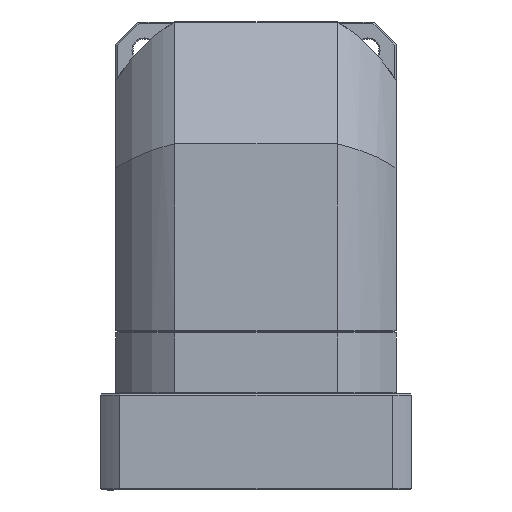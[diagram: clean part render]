
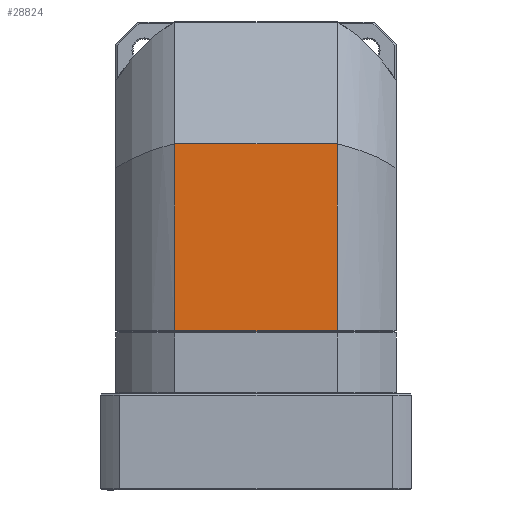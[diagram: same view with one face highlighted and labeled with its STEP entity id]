
A CAD part, front view. The second image highlights one B-rep face of the part: STEP entity #28824.
In plain terms, the highlighted planar face has unit normal (0, 1, 0).
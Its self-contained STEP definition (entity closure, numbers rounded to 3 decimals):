
#3601 = CARTESIAN_POINT ( 'NONE',  ( 33.407, -172.111, 7.5 ) ) ;
#3879 = EDGE_LOOP ( 'NONE', ( #90164, #18496, #23633, #68436 ) ) ;
#4256 = CARTESIAN_POINT ( 'NONE',  ( -33.407, -172.111, -69.2 ) ) ;
#10354 = EDGE_CURVE ( 'NONE', #79017, #15861, #17629, .T. ) ;
#12039 = DIRECTION ( 'NONE',  ( 1., 0., 0. ) ) ;
#15014 = DIRECTION ( 'NONE',  ( 1., 0., 0. ) ) ;
#15861 = VERTEX_POINT ( 'NONE', #21149 ) ;
#17629 = LINE ( 'NONE', #47541, #30992 ) ;
#18496 = ORIENTED_EDGE ( 'NONE', *, *, #10354, .F. ) ;
#19668 = EDGE_CURVE ( 'NONE', #79017, #80473, #44765, .T. ) ;
#21149 = CARTESIAN_POINT ( 'NONE',  ( 33.407, -172.111, -69.2 ) ) ;
#21383 = CARTESIAN_POINT ( 'NONE',  ( -33.407, -172.111, -30.62 ) ) ;
#21651 = VECTOR ( 'NONE', #52664, 1000. ) ;
#23633 = ORIENTED_EDGE ( 'NONE', *, *, #19668, .T. ) ;
#24098 = DIRECTION ( 'NONE',  ( 1., 0., 0. ) ) ;
#28824 = ADVANCED_FACE ( 'NONE', ( #100518 ), #73868, .F. ) ;
#30992 = VECTOR ( 'NONE', #24098, 1000. ) ;
#35540 = EDGE_CURVE ( 'NONE', #80473, #64471, #85848, .T. ) ;
#41476 = CARTESIAN_POINT ( 'NONE',  ( -33.407, -172.111, -69.2 ) ) ;
#44765 = LINE ( 'NONE', #21383, #21651 ) ;
#45870 = CARTESIAN_POINT ( 'NONE',  ( 33.407, -172.111, -30.62 ) ) ;
#47541 = CARTESIAN_POINT ( 'NONE',  ( 0., -172.111, -69.2 ) ) ;
#52664 = DIRECTION ( 'NONE',  ( 0., 0., 1. ) ) ;
#55518 = VECTOR ( 'NONE', #100183, 1000. ) ;
#56862 = CARTESIAN_POINT ( 'NONE',  ( -33.407, -172.111, 7.5 ) ) ;
#58658 = DIRECTION ( 'NONE',  ( 0., -1., 0. ) ) ;
#61565 = CARTESIAN_POINT ( 'NONE',  ( 0., -172.111, 7.5 ) ) ;
#64471 = VERTEX_POINT ( 'NONE', #3601 ) ;
#68436 = ORIENTED_EDGE ( 'NONE', *, *, #35540, .T. ) ;
#73868 = PLANE ( 'NONE',  #92313 ) ;
#75277 = EDGE_CURVE ( 'NONE', #64471, #15861, #96733, .T. ) ;
#79017 = VERTEX_POINT ( 'NONE', #41476 ) ;
#80473 = VERTEX_POINT ( 'NONE', #56862 ) ;
#85848 = LINE ( 'NONE', #61565, #95574 ) ;
#90164 = ORIENTED_EDGE ( 'NONE', *, *, #75277, .T. ) ;
#92313 = AXIS2_PLACEMENT_3D ( 'NONE', #4256, #58658, #12039 ) ;
#95574 = VECTOR ( 'NONE', #15014, 1000. ) ;
#96733 = LINE ( 'NONE', #45870, #55518 ) ;
#100183 = DIRECTION ( 'NONE',  ( 0., 0., -1. ) ) ;
#100518 = FACE_OUTER_BOUND ( 'NONE', #3879, .T. ) ;
